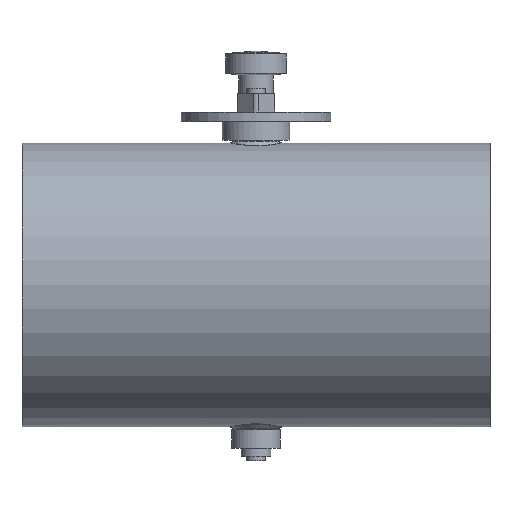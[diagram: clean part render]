
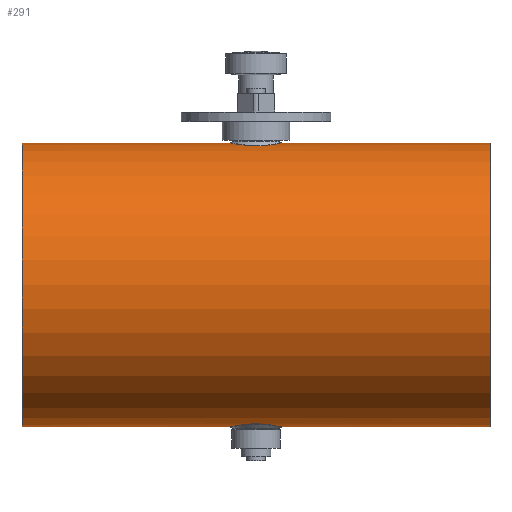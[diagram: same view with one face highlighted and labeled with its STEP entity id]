
A CAD part, top view. The second image highlights one B-rep face of the part: STEP entity #291.
In plain terms, the highlighted cylindrical face has radius 75.8 mm (diameter 151.6 mm), a full revolution.
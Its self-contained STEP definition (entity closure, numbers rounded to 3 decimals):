
#215=B_SPLINE_CURVE_WITH_KNOTS('',3,(#1835,#1836,#1837,#1838,#1839,#1840,
#1841,#1842,#1843,#1844,#1845,#1846,#1847,#1848,#1849,#1850,#1851,#1852,
#1853,#1854,#1855,#1856),.UNSPECIFIED.,.T.,.F.,(2,2,2,2,2,2,2,2,2,2,2,2,
2),(-0.062,0.,0.125,0.25,0.375,0.438,0.5,0.625,0.75,0.875,
0.938,1.,1.125),.UNSPECIFIED.);
#216=B_SPLINE_CURVE_WITH_KNOTS('',3,(#1858,#1859,#1860,#1861,#1862,#1863,
#1864,#1865,#1866,#1867,#1868,#1869,#1870,#1871,#1872,#1873,#1874,#1875,
#1876,#1877,#1878,#1879),.UNSPECIFIED.,.T.,.F.,(2,2,2,2,2,2,2,2,2,2,2,2,
2),(-0.125,0.,0.063,0.125,0.25,0.375,0.5,0.563,0.625,0.75,0.875,1.,1.063),
 .UNSPECIFIED.);
#252=CYLINDRICAL_SURFACE('',#1302,75.8);
#291=ADVANCED_FACE('',(#437,#438,#439,#440),#252,.T.);
#437=FACE_BOUND('',#585,.T.);
#438=FACE_BOUND('',#586,.T.);
#439=FACE_BOUND('',#587,.T.);
#440=FACE_BOUND('',#588,.T.);
#585=EDGE_LOOP('',(#755));
#586=EDGE_LOOP('',(#756));
#587=EDGE_LOOP('',(#757));
#588=EDGE_LOOP('',(#758));
#755=ORIENTED_EDGE('',*,*,#1095,.T.);
#756=ORIENTED_EDGE('',*,*,#1096,.T.);
#757=ORIENTED_EDGE('',*,*,#1091,.T.);
#758=ORIENTED_EDGE('',*,*,#1093,.T.);
#985=VERTEX_POINT('',#1826);
#987=VERTEX_POINT('',#1831);
#989=VERTEX_POINT('',#1857);
#990=VERTEX_POINT('',#1880);
#1091=EDGE_CURVE('',#985,#985,#1213,.T.);
#1093=EDGE_CURVE('',#987,#987,#1215,.T.);
#1095=EDGE_CURVE('',#989,#989,#215,.T.);
#1096=EDGE_CURVE('',#990,#990,#216,.T.);
#1213=CIRCLE('',#1296,75.8);
#1215=CIRCLE('',#1299,75.8);
#1296=AXIS2_PLACEMENT_3D('',#1825,#1476,#1477);
#1299=AXIS2_PLACEMENT_3D('',#1830,#1482,#1483);
#1302=AXIS2_PLACEMENT_3D('',#1881,#1488,#1489);
#1476=DIRECTION('',(-1.,0.,0.));
#1477=DIRECTION('',(0.,0.,1.));
#1482=DIRECTION('',(1.,0.,0.));
#1483=DIRECTION('',(0.,0.,-1.));
#1488=DIRECTION('',(1.,0.,0.));
#1489=DIRECTION('',(0.,0.,-1.));
#1825=CARTESIAN_POINT('',(125.,-33.3,125.));
#1826=CARTESIAN_POINT('',(125.,-33.3,200.8));
#1830=CARTESIAN_POINT('',(-125.,-33.3,125.));
#1831=CARTESIAN_POINT('',(-125.,-33.3,49.2));
#1835=CARTESIAN_POINT('',(-1.915,-107.469,109.347));
#1836=CARTESIAN_POINT('',(-7.562,-107.826,111.109));
#1837=CARTESIAN_POINT('',(-10.621,-108.374,113.968));
#1838=CARTESIAN_POINT('',(-14.122,-109.069,120.892));
#1839=CARTESIAN_POINT('',(-14.603,-109.195,125.036));
#1840=CARTESIAN_POINT('',(-12.852,-108.813,132.605));
#1841=CARTESIAN_POINT('',(-10.608,-108.314,136.114));
#1842=CARTESIAN_POINT('',(-5.817,-107.729,139.396));
#1843=CARTESIAN_POINT('',(-3.978,-107.568,140.164));
#1844=CARTESIAN_POINT('',(-0.112,-107.436,140.797));
#1845=CARTESIAN_POINT('',(1.892,-107.468,140.655));
#1846=CARTESIAN_POINT('',(7.524,-107.822,138.912));
#1847=CARTESIAN_POINT('',(10.597,-108.369,136.071));
#1848=CARTESIAN_POINT('',(14.133,-109.071,129.094));
#1849=CARTESIAN_POINT('',(14.606,-109.195,124.972));
#1850=CARTESIAN_POINT('',(12.847,-108.811,117.377));
#1851=CARTESIAN_POINT('',(10.591,-108.311,113.868));
#1852=CARTESIAN_POINT('',(5.799,-107.727,110.595));
#1853=CARTESIAN_POINT('',(3.94,-107.566,109.826));
#1854=CARTESIAN_POINT('',(0.102,-107.437,109.205));
#1855=CARTESIAN_POINT('',(-1.915,-107.469,109.347));
#1856=CARTESIAN_POINT('',(-7.562,-107.826,111.109));
#1857=CARTESIAN_POINT('',(-3.798,-107.588,109.935));
#1858=CARTESIAN_POINT('',(-7.563,41.226,111.109));
#1859=CARTESIAN_POINT('',(-1.915,40.869,109.347));
#1860=CARTESIAN_POINT('',(0.083,40.837,109.204));
#1861=CARTESIAN_POINT('',(3.931,40.966,109.822));
#1862=CARTESIAN_POINT('',(5.783,41.125,110.584));
#1863=CARTESIAN_POINT('',(10.614,41.714,113.883));
#1864=CARTESIAN_POINT('',(12.856,42.213,117.393));
#1865=CARTESIAN_POINT('',(14.607,42.596,124.998));
#1866=CARTESIAN_POINT('',(14.117,42.467,129.126));
#1867=CARTESIAN_POINT('',(10.611,41.772,136.043));
#1868=CARTESIAN_POINT('',(7.552,41.226,138.889));
#1869=CARTESIAN_POINT('',(1.943,40.87,140.647));
#1870=CARTESIAN_POINT('',(-0.037,40.836,140.8));
#1871=CARTESIAN_POINT('',(-3.935,40.965,140.18));
#1872=CARTESIAN_POINT('',(-5.777,41.125,139.417));
#1873=CARTESIAN_POINT('',(-10.595,41.711,136.134));
#1874=CARTESIAN_POINT('',(-12.844,42.211,132.638));
#1875=CARTESIAN_POINT('',(-14.61,42.596,125.007));
#1876=CARTESIAN_POINT('',(-14.139,42.472,120.921));
#1877=CARTESIAN_POINT('',(-10.599,41.769,113.927));
#1878=CARTESIAN_POINT('',(-7.563,41.226,111.109));
#1879=CARTESIAN_POINT('',(-1.915,40.869,109.347));
#1880=CARTESIAN_POINT('',(-3.798,40.988,109.935));
#1881=CARTESIAN_POINT('',(-125.,-33.3,125.));
